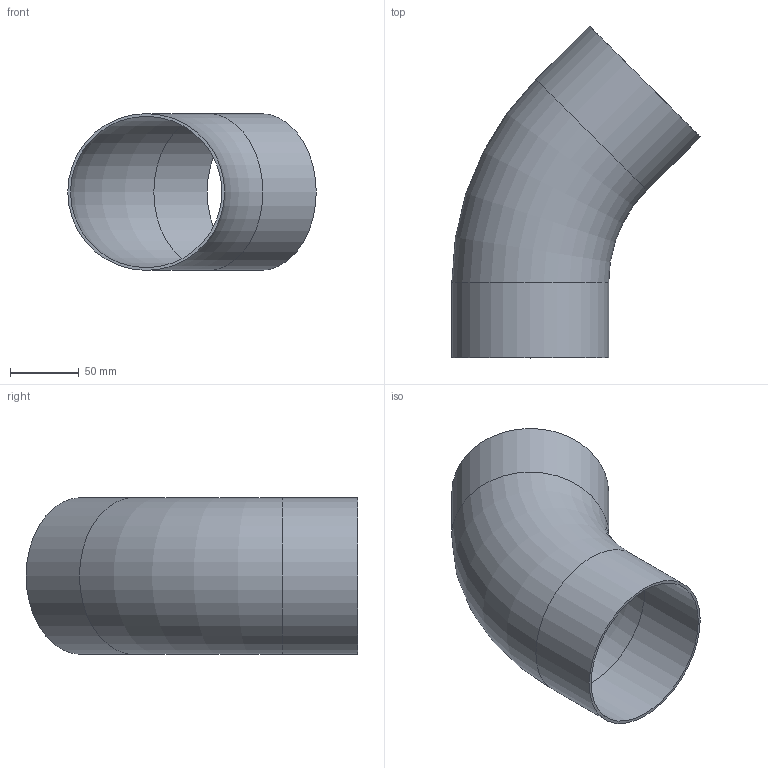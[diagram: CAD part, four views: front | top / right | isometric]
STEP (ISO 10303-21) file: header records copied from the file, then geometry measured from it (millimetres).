
FILE_DESCRIPTION(/* description */ (''),/* implementation_level */ '2;1');
FILE_NAME(/* name */ 'C:\Users\LK_9K\Desktop\STRAUB BOGEN 45 B3 DN100.stp',/* time_stamp */ '2021-04-09T07:14:06+02:00',/* author */ ('LK_9K'),/* organization */ (''),/* preprocessor_version */ 'ST-DEVELOPER v18.1',/* originating_system */ 'Autodesk Inventor 2020',/* authorisation */ '');
FILE_SCHEMA (('AUTOMOTIVE_DESIGN { 1 0 10303 214 3 1 1 }'));
Length unit declared in the file: millimetre
Products named in the file (1): Bauteil1
Bounding box: 180.97 x 241.78 x 114.3 mm (x, y, z)
Volume: 161851.3 mm3; surface area: 163262.5 mm2
Topology: 1 solids, 1 shells, 8 faces, 20 edges, 14 vertices
Faces by surface type: cylinder 4, torus 2, plane 2
Full cylindrical faces by diameter (mm): 110.3 x2, 114.3 x2
Entity records: 301 total; most frequent: DIRECTION 54, CARTESIAN_POINT 43, ORIENTED_EDGE 40, AXIS2_PLACEMENT_3D 25, EDGE_CURVE 20, CIRCLE 16, VERTEX_POINT 14, EDGE_LOOP 10
